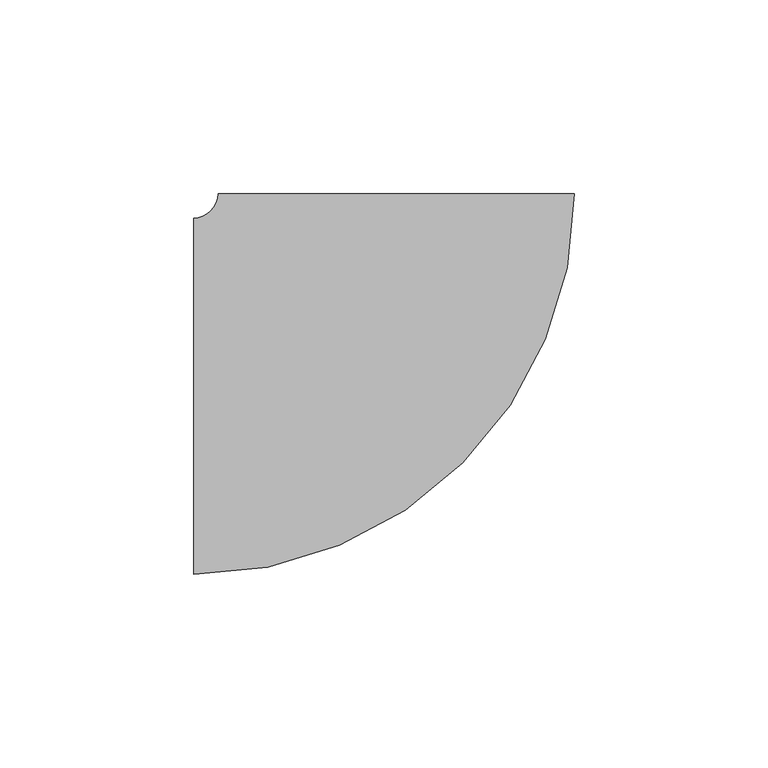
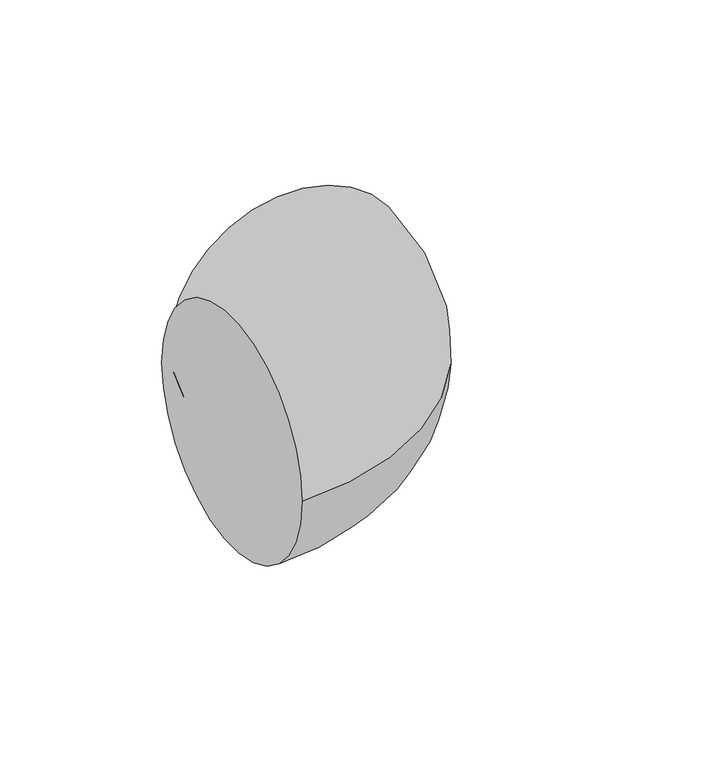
"""IFC4 building model written with IfcOpenShell, lengths in millimetres: pipe fitting geometry, M_Codo - Genérico : Estándar."""

import ifcopenshell
import ifcopenshell.guid

model = None  # the IFC model being written
_history = None  # IfcOwnerHistory: only IFC2X3 demands one
_inside = {}  # id of a spatial element -> (the spatial element, [elements in it])
_under = {}  # id of a project, library or spatial element -> (it, [spatial elements below it])
_declared = {}  # id of a project -> (the project, [libraries it declares])
_typed = {}  # id of a type object -> (the type object, [elements of that type])
_made_of = {}  # id of a material, layer set ... -> (it, [elements and type objects made of it])


def new_model(schema):
    """Start an empty IFC model of exactly this schema.

    Asked for "IFC4X3", IfcOpenShell would pick the latest addendum, in which some entities
    have other attributes; the version numbers below select the first issue.
    IFC2X3 requires an IfcOwnerHistory on every rooted entity: one is made here for all.
    """
    global model, _history
    if schema == "IFC4X3":
        model = ifcopenshell.file(schema_version=(4, 3, 0, 0))
    else:
        model = ifcopenshell.file(schema=schema)
    _inside.clear()
    _under.clear()
    _declared.clear()
    _typed.clear()
    _made_of.clear()
    _history = None
    if model.schema == "IFC2X3":
        org = make("IfcOrganization", Name="unknown")
        user = make(
            "IfcPersonAndOrganization",
            ThePerson=make("IfcPerson", FamilyName="unknown"),
            TheOrganization=org,
        )
        app = make(
            "IfcApplication",
            ApplicationDeveloper=org,
            Version="unknown",
            ApplicationFullName="unknown",
            ApplicationIdentifier="unknown",
        )
        _history = make(
            "IfcOwnerHistory",
            OwningUser=user,
            OwningApplication=app,
            ChangeAction="ADDED",
            CreationDate=0,
        )
    return model


def make(cls, **values):
    """One entity of the class cls with the attributes given. An attribute that is None is left unset."""
    return model.create_entity(
        cls, **{name: value for name, value in values.items() if value is not None}
    )


def rooted(cls, **values):
    """An entity with a GlobalId (a new one), such as an element, a storey or a relation."""
    return make(cls, GlobalId=ifcopenshell.guid.new(), OwnerHistory=_history, **values)


def si_unit(unit_type, name, prefix=None):
    """IfcSIUnit, for example si_unit("LENGTHUNIT", "METRE", prefix="MILLI")."""
    return make("IfcSIUnit", UnitType=unit_type, Prefix=prefix, Name=name)


def assignment(units):
    """IfcUnitAssignment: the units of a project."""
    return None if units is None else make("IfcUnitAssignment", Units=units)


def point(xyz):
    """IfcCartesianPoint."""
    return None if xyz is None else make("IfcCartesianPoint", Coordinates=xyz)


def direction(xyz):
    """IfcDirection."""
    return None if xyz is None else make("IfcDirection", DirectionRatios=xyz)


def frame(location, z_axis=None, x_axis=None):
    """IfcAxis2Placement3D, a coordinate frame: its origin and axes. An axis left out is left unset."""
    return make(
        "IfcAxis2Placement3D",
        Location=point(location),
        Axis=direction(z_axis),
        RefDirection=direction(x_axis),
    )


def origin():
    """The frame at (0, 0, 0) with its axes left unset."""
    return frame((0.0, 0.0, 0.0))


def place(relative_to, where):
    """IfcLocalPlacement: puts the frame where relative to a parent placement (None: the world)."""
    return make(
        "IfcLocalPlacement", PlacementRelTo=relative_to, RelativePlacement=where
    )


def context(
    kind, dimensions, precision=None, world=None, true_north=None, identifier=None
):
    """IfcGeometricRepresentationContext, for example the 3D "Model" context."""
    return make(
        "IfcGeometricRepresentationContext",
        ContextIdentifier=identifier,
        ContextType=kind,
        CoordinateSpaceDimension=dimensions,
        Precision=precision,
        WorldCoordinateSystem=world,
        TrueNorth=true_north,
    )


def project(units=None, contexts=None):
    """IfcProject with its units and contexts."""
    return rooted(
        "IfcProject",
        Name="project",
        RepresentationContexts=contexts,
        UnitsInContext=assignment(units),
    )


def spatial(cls, under=None, at=None, **own):
    """A site, building, storey or space (cls), placed at a placement, below another one or the project."""
    s = rooted(cls, ObjectPlacement=at, **own)
    if under is not None:
        _under.setdefault(under.id(), (under, []))[1].append(s)
    return s


def circle_curve(where, radius):
    """IfcCircle in the frame where."""
    return make("IfcCircle", Position=where, Radius=radius)


def ellipse_curve(where, semi_axis1, semi_axis2):
    """IfcEllipse in the frame where."""
    return make(
        "IfcEllipse", Position=where, SemiAxis1=semi_axis1, SemiAxis2=semi_axis2
    )


def trimmed(basis, trim1, trim2, sense, master):
    """IfcTrimmedCurve: the piece of a basis curve between two trims."""
    return make(
        "IfcTrimmedCurve",
        BasisCurve=basis,
        Trim1=trim1,
        Trim2=trim2,
        SenseAgreement=sense,
        MasterRepresentation=master,
    )


def shape(context_of_items, identifier, shape_type, items):
    """IfcShapeRepresentation: the items that make up one representation, for example the "Body"."""
    return make(
        "IfcShapeRepresentation",
        ContextOfItems=context_of_items,
        RepresentationIdentifier=identifier,
        RepresentationType=shape_type,
        Items=items,
    )


def source(mapping_origin, context_of_items, identifier, shape_type, items):
    """IfcRepresentationMap: a shape defined once, which mapped items show again and again."""
    return make(
        "IfcRepresentationMap",
        MappingOrigin=mapping_origin,
        MappedRepresentation=shape(context_of_items, identifier, shape_type, items),
    )


def transform(
    local_origin,
    x_axis=None,
    y_axis=None,
    z_axis=None,
    scale=None,
    scale2=None,
    scale3=None,
    uniform=True,
):
    """IfcCartesianTransformationOperator3D, or its non-uniform kind. x_axis, y_axis, z_axis: its Axis1, 2, 3."""
    if uniform:
        return make(
            "IfcCartesianTransformationOperator3D",
            Axis1=direction(x_axis),
            Axis2=direction(y_axis),
            LocalOrigin=point(local_origin),
            Scale=scale,
            Axis3=direction(z_axis),
        )
    return make(
        "IfcCartesianTransformationOperator3DnonUniform",
        Axis1=direction(x_axis),
        Axis2=direction(y_axis),
        LocalOrigin=point(local_origin),
        Scale=scale,
        Axis3=direction(z_axis),
        Scale2=scale2,
        Scale3=scale3,
    )


def mapped(mapping_source, mapping_target):
    """IfcMappedItem: shows the shape of a source again, moved by a transform."""
    return make(
        "IfcMappedItem", MappingSource=mapping_source, MappingTarget=mapping_target
    )


def made_of(thing, what):
    """Note that an element or type object is made of a material, layer set ...; save() writes the relation."""
    if what is not None:
        _made_of.setdefault(what.id(), (what, []))[1].append(thing)
    return thing


def element(
    cls,
    number,
    at=None,
    inside=None,
    cuts=None,
    type_object=None,
    material=None,
    context=None,
    identifier="Body",
    shape_type=None,
    held_by="IfcProductDefinitionShape",
    body=None,
    shapes=None,
    **own,
):
    """One element of the class cls, such as IfcWall. Its Tag is "e" and its number.

    at: its placement. inside: the storey or other place that contains it. cuts: it is an
    opening in that element (IfcRelVoidsElement). A single representation is given by context,
    identifier, shape_type and body (its items); several are given by shapes. held_by: the class
    of the entity that holds the representations. save() writes the other relations.
    """
    e = rooted(cls, Tag="e%d" % number, ObjectPlacement=at, **own)
    if body is not None:
        shapes = [shape(context, identifier, shape_type, body)]
    if shapes is not None:
        e.Representation = make(held_by, Representations=shapes)
    if inside is not None:
        _inside.setdefault(inside.id(), (inside, []))[1].append(e)
    if cuts is not None:
        rooted(
            "IfcRelVoidsElement", RelatingBuildingElement=cuts, RelatedOpeningElement=e
        )
    if type_object is not None:
        _typed.setdefault(type_object.id(), (type_object, []))[1].append(e)
    return made_of(e, material)


def aggregate(whole, parts):
    """IfcRelAggregates: a whole, such as a stair, and the parts it consists of."""
    return rooted("IfcRelAggregates", RelatingObject=whole, RelatedObjects=parts)


def save(model, path):
    """Write the relations noted so far, then the file.

    IfcRelAggregates (storeys below a building ...), IfcRelContainedInSpatialStructure (elements
    in a storey), IfcRelDefinesByType, IfcRelAssociatesMaterial and IfcRelDeclares: one each for
    every whole, place, type object, material and project.
    """
    for whole, parts in _under.values():
        aggregate(whole, parts)
    for where, things in _inside.values():
        rooted(
            "IfcRelContainedInSpatialStructure",
            RelatedElements=things,
            RelatingStructure=where,
        )
    for kind, things in _typed.values():
        rooted("IfcRelDefinesByType", RelatedObjects=things, RelatingType=kind)
    for what, things in _made_of.values():
        rooted("IfcRelAssociatesMaterial", RelatedObjects=things, RelatingMaterial=what)
    for by, libraries in _declared.values():
        rooted("IfcRelDeclares", RelatingContext=by, RelatedDefinitions=libraries)
    model.write(path)


def plane_surface(at):
    """IfcPlane: the flat surface through the origin of the frame at, square to its z axis."""
    return make("IfcPlane", Position=at)


def revolved_surface(curve, axis_point, axis_direction):
    """IfcSurfaceOfRevolution: the curve turned about the line through axis_point along axis_direction."""
    return make(
        "IfcSurfaceOfRevolution",
        SweptCurve=make("IfcArbitraryOpenProfileDef", ProfileType="CURVE", Curve=curve),
        AxisPosition=make("IfcAxis1Placement", Location=point(axis_point), Axis=direction(axis_direction)),
    )


def advanced_brep(points, edges, surfaces, faces):
    """IfcAdvancedBrep: a solid bounded by faces that lie on surfaces and meet in shared edges.

    An edge is (start, end): straight between two places in points (the first is 0);
    or (start, end, curve); or (start, end, curve, False) where it runs against its curve.
    A face is (place in surfaces, loops), or (place, loops, False) where it looks against
    its surface's normal. A loop lists edges by number (the first is 1), with a minus sign
    where the edge is run from its end to its start. The first loop is the outer one.
    """
    corners = [point(p) for p in points]
    vertices = [make("IfcVertexPoint", VertexGeometry=c) for c in corners]
    made = []
    for start, end, *more in edges:
        made.append(
            make(
                "IfcEdgeCurve",
                EdgeStart=vertices[start],
                EdgeEnd=vertices[end],
                EdgeGeometry=more[0] if more else make("IfcPolyline", Points=[corners[start], corners[end]]),
                SameSense=more[1] if len(more) > 1 else True,
            )
        )
    hull = []
    for where, loops, *sense in faces:
        bounds = []
        for j, loop in enumerate(loops):
            ring = [make("IfcOrientedEdge", EdgeElement=made[abs(k) - 1], Orientation=k > 0) for k in loop]
            bounds.append(
                make(
                    "IfcFaceOuterBound" if j == 0 else "IfcFaceBound",
                    Bound=make("IfcEdgeLoop", EdgeList=ring),
                    Orientation=True,
                )
            )
        hull.append(make("IfcAdvancedFace", Bounds=bounds, FaceSurface=surfaces[where], SameSense=sense[0] if sense else True))
    return make("IfcAdvancedBrep", Outer=make("IfcClosedShell", CfsFaces=hull))


def pipe_fitting_23e94af2(model_context):
    return source(origin(), model_context, "Body", "AdvancedBrep", [
        advanced_brep(
        [(-52.3895948, -46.0375, 0.0), (-52.3895948, 46.0375, 0.0), (46.0354051, 52.3914357, 0.0), (-46.0395948, 52.3877539, 0.0)],
        [
            (0, 1, circle_curve(frame((-52.3895948, 0.0, 0.0), z_axis=(-1.0, 0.0, 0.0), x_axis=(0.0, 1.0, 0.0)), 46.0375)),
            (1, 0, circle_curve(frame((-52.3895948, 0.0, 0.0), z_axis=(-1.0, 0.0, 0.0), x_axis=(0.0, 1.0, 0.0)), 46.0375)),
            (2, 3, circle_curve(frame((-0.0020949, 52.3895948, 0.0), z_axis=(-3.99866878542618e-05, 0.9999999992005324, 0.0), x_axis=(-0.9999999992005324, -3.99866878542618e-05, 0.0)), 46.0375)),
            (3, 2, circle_curve(frame((-0.0020949, 52.3895948, 0.0), z_axis=(-3.99866878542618e-05, 0.9999999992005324, 0.0), x_axis=(-0.9999999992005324, -3.99866878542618e-05, 0.0)), 46.0375)),
            (3, 1, circle_curve(frame((-52.3895948, 52.3875, 0.0), z_axis=(0.0, 0.0, -1.0), x_axis=(0.0, -1.0, 0.0)), 6.35)),
            (0, 2, circle_curve(frame((-52.3895948, 52.3875, 0.0), z_axis=(0.0, 0.0, 1.0), x_axis=(0.0, -1.0, 0.0)), 98.425)),
        ],
        [
            plane_surface(frame((-52.3895948, 0.0, 0.0), z_axis=(-1.0, 0.0, 0.0), x_axis=(0.0, 0.0, 1.0))),
            plane_surface(frame((-0.0020949, 52.3895948, 0.0), z_axis=(-3.9986687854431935e-05, 0.9999999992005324, 0.0), x_axis=(0.0, 0.0, 1.0))),
            revolved_surface(trimmed(ellipse_curve(frame((-52.3895948, 0.0, 0.0), z_axis=(-1.0, 0.0, 0.0), x_axis=(0.0, 1.0, 0.0)), 46.0375, 46.0375), [point((-52.3895948, -46.0375, 0.0))], [point((-52.3895948, 46.0375, 0.0))], True, "CARTESIAN"), (-52.3895948, 52.3875, 0.0), (0.0, 0.0, 1.0)),
            revolved_surface(trimmed(ellipse_curve(frame((-52.3895948, 0.0, 0.0), z_axis=(-1.0, 0.0, 0.0), x_axis=(0.0, 1.0, 0.0)), 46.0375, 46.0375), [point((-52.3895948, 46.0375, 0.0))], [point((-52.3895948, -46.0375, 0.0))], True, "CARTESIAN"), (-52.3895948, 52.3875, 0.0), (0.0, 0.0, 1.0)),
        ],
        [
            (0, [[1, 2]]),
            (1, [[3, 4]]),
            (2, [[5, -1, 6, -4]]),
            (3, [[-6, -2, -5, -3]]),
        ],
    ),
    ])


if __name__ == "__main__":
    model = new_model("IFC4")
    model_context = context("Model", 3, world=origin())
    ifc_project = project(units=[si_unit("LENGTHUNIT", "METRE", prefix="MILLI")], contexts=[model_context])
    site = spatial("IfcSite", under=ifc_project)
    building = spatial("IfcBuilding", under=site)
    placement = place(None, origin())
    pipe_fitting_shape = pipe_fitting_23e94af2(model_context)
    element("IfcPipeFitting", 1, ObjectType="M_Codo - Genérico : Estándar", at=placement, inside=building, context=model_context, shape_type="MappedRepresentation", body=[
        mapped(pipe_fitting_shape, transform((0.0, 0.0, 0.0), x_axis=(1.0, 0.0, 0.0), y_axis=(0.0, 1.0, 0.0), z_axis=(0.0, 0.0, 1.0))),
    ])
    save(model, "model.ifc")
